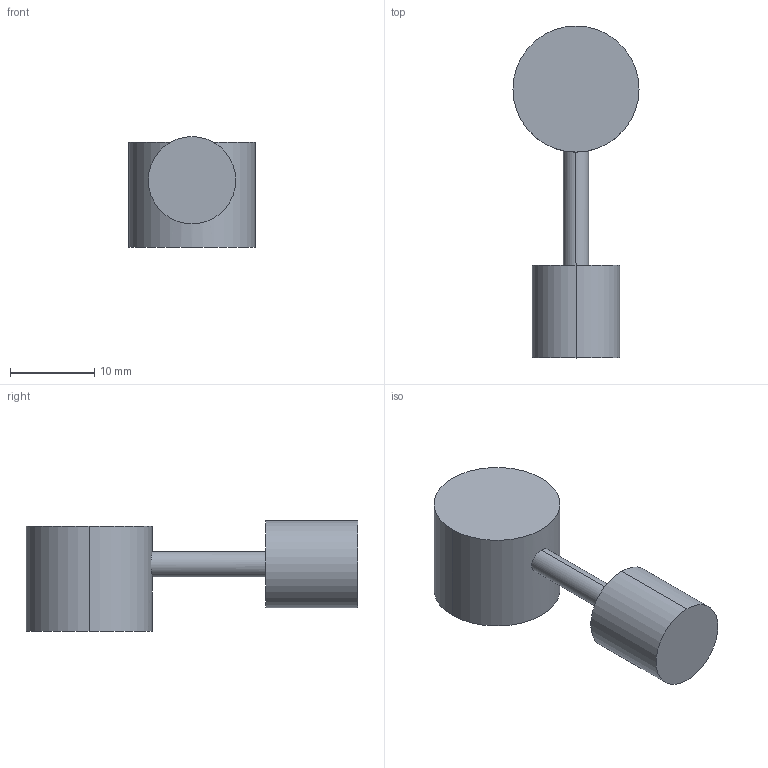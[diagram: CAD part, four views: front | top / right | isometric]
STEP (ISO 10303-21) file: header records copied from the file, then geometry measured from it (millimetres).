
FILE_DESCRIPTION (( 'STEP AP214' ), '1' );
FILE_NAME ('Front-Bodenverbinderset_Excenter-H12,5.step', '2010-09-09T14:31:08', ( 'grass' ), ( '' ), 'SwSTEP 2.0', 'SolidWorks 2009', '' );
FILE_SCHEMA (( 'AUTOMOTIVE_DESIGN' ));
Length unit declared in the file: millimetre
Products named in the file (1): Front-Bodenverbinderset_Excenter-H12,5
Bounding box: 15 x 39.5 x 13.2 mm (x, y, z)
Volume: 3239.1 mm3; surface area: 1585.5 mm2
Topology: 1 solids, 1 shells, 10 faces, 18 edges, 12 vertices
Faces by surface type: cylinder 6, plane 4
Entity records: 330 total; most frequent: CARTESIAN_POINT 89, DIRECTION 48, ORIENTED_EDGE 36, AXIS2_PLACEMENT_3D 21, EDGE_CURVE 18, EDGE_LOOP 12, VERTEX_POINT 12, ADVANCED_FACE 10
